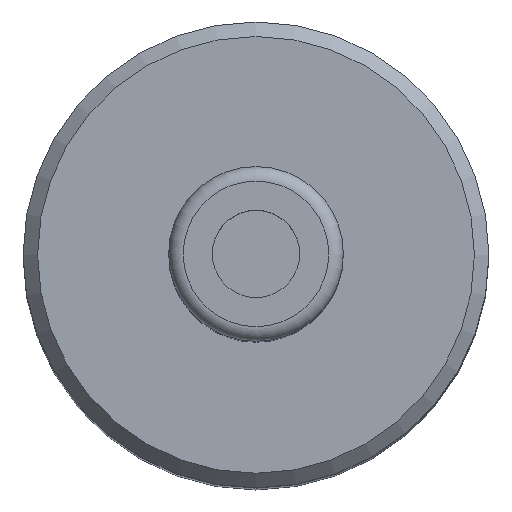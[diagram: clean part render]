
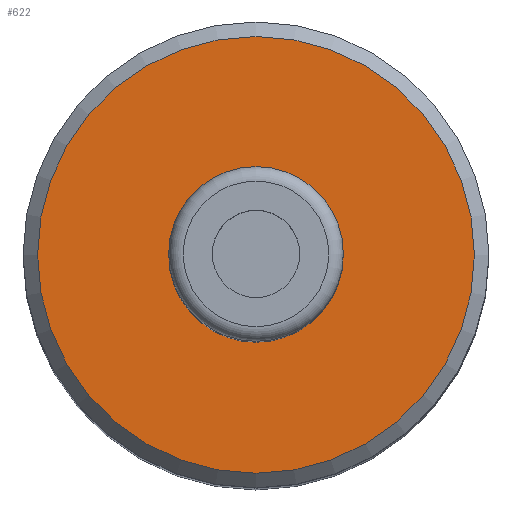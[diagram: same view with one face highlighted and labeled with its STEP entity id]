
A CAD part, top view. The second image highlights one B-rep face of the part: STEP entity #622.
In plain terms, the highlighted planar face has unit normal (0, 0, 1).
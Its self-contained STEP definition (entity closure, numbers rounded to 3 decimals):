
#602 = VERTEX_POINT('',#603);
#603 = CARTESIAN_POINT('',(15.,0.,87.));
#611 = EDGE_CURVE('',#602,#602,#612,.T.);
#612 = CIRCLE('',#613,15.);
#613 = AXIS2_PLACEMENT_3D('',#614,#615,#616);
#614 = CARTESIAN_POINT('',(0.,0.,87.));
#615 = DIRECTION('',(0.,0.,1.));
#616 = DIRECTION('',(1.,0.,0.));
#622 = ADVANCED_FACE('',(#623),#626,.T.);
#623 = FACE_BOUND('',#624,.T.);
#624 = EDGE_LOOP('',(#625));
#625 = ORIENTED_EDGE('',*,*,#611,.T.);
#626 = PLANE('',#627);
#627 = AXIS2_PLACEMENT_3D('',#628,#629,#630);
#628 = CARTESIAN_POINT('',(0.,0.,87.));
#629 = DIRECTION('',(0.,0.,1.));
#630 = DIRECTION('',(1.,0.,0.));
